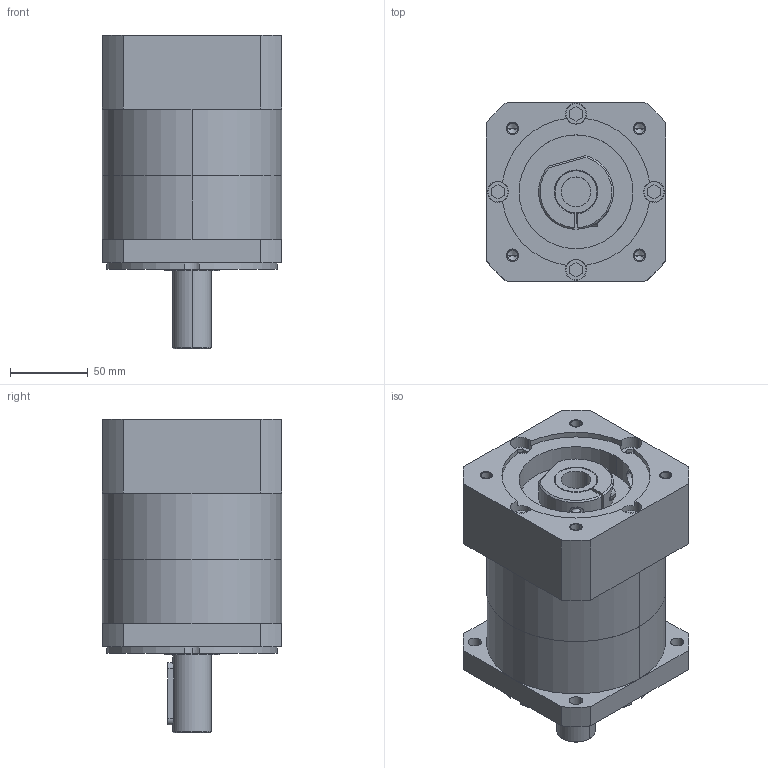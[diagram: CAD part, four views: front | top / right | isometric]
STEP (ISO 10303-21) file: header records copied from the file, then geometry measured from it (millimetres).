
FILE_DESCRIPTION((''),'2;1');
FILE_NAME('PLE120_115_1_ASM','2008-04-11T',('Ille'),(''),'PRO/ENGINEER BY PARAMETRIC TECHNOLOGY CORPORATION, 2005170','PRO/ENGINEER BY PARAMETRIC TECHNOLOGY CORPORATION, 2005170','');
FILE_SCHEMA(('CONFIG_CONTROL_DESIGN'));
Length unit declared in the file: millimetre
Products named in the file (5): PLE120_115_1; 210-288_065-000; M6_10; M8_10; PLE120_115_1_ASM
Assembly tree (11 placements, depth 2):
  PLE120_115_1_ASM
    PLE120_115_1
    210-288_065-000
    M6_10
    M8_10  x8
Bounding box: 115 x 115 x 201 mm (x, y, z)
Volume: 1643416.7 mm3; surface area: 147642.9 mm2
Topology: 12 solids, 27 shells, 361 faces, 841 edges, 547 vertices
Faces by surface type: cylinder 161, plane 158, cone 42
Entity records: 7132 total; most frequent: CARTESIAN_POINT 1446, DIRECTION 1279, ORIENTED_EDGE 1042, EDGE_CURVE 537, AXIS2_PLACEMENT_3D 522, VERTEX_POINT 351, EDGE_LOOP 274, CIRCLE 270
